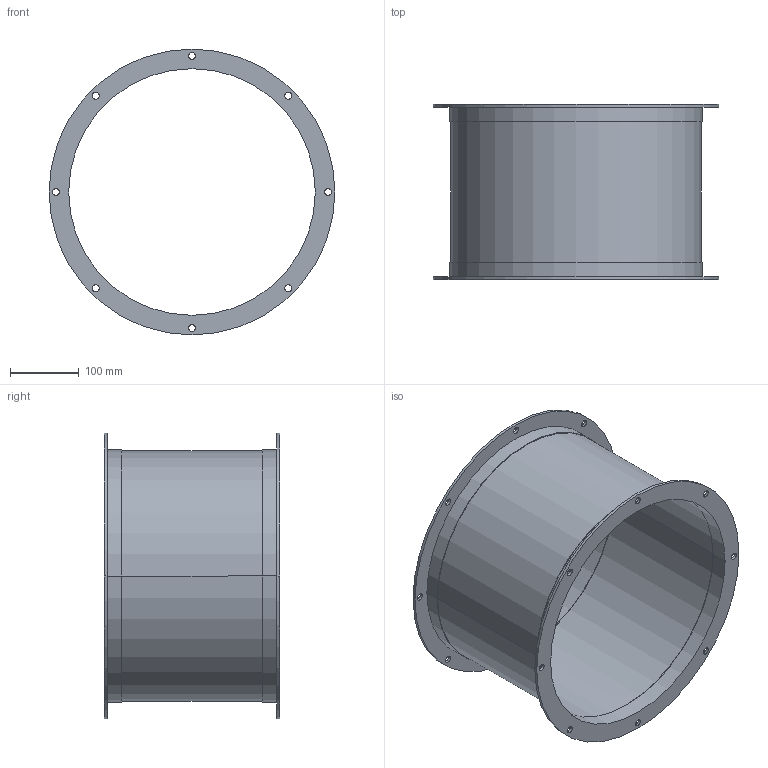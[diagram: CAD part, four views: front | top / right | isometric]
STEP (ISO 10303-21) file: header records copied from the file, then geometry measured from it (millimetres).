
FILE_DESCRIPTION(('STEP AP214'),'1');
FILE_NAME('accessory_5136833000.stp','2017-10-09T08:00:49',('TraceParts'),('TraceParts S.A.'),'Spatial InterOp 3D',' ',' ');
FILE_SCHEMA(('automotive_design'));
Length unit declared in the file: millimetre
Products named in the file (1): accessory_5136833000
Bounding box: 415 x 254 x 415 mm (x, y, z)
Volume: 926876.6 mm3; surface area: 712327.9 mm2
Topology: 1 solids, 1 shells, 56 faces, 144 edges, 96 vertices
Faces by surface type: cylinder 48, plane 8
Entity records: 2296 total; most frequent: DIRECTION 354, CARTESIAN_POINT 297, ORIENTED_EDGE 288, AXIS2_PLACEMENT_3D 153, EDGE_CURVE 144, EDGE_LOOP 96, VERTEX_POINT 96, CIRCLE 96
